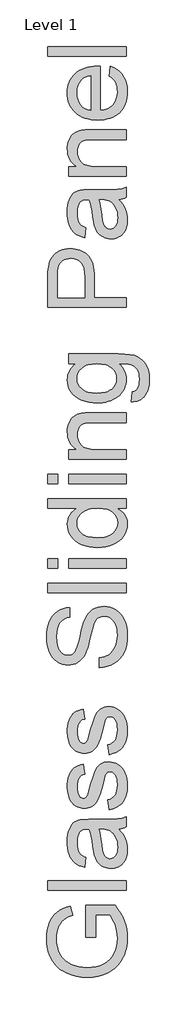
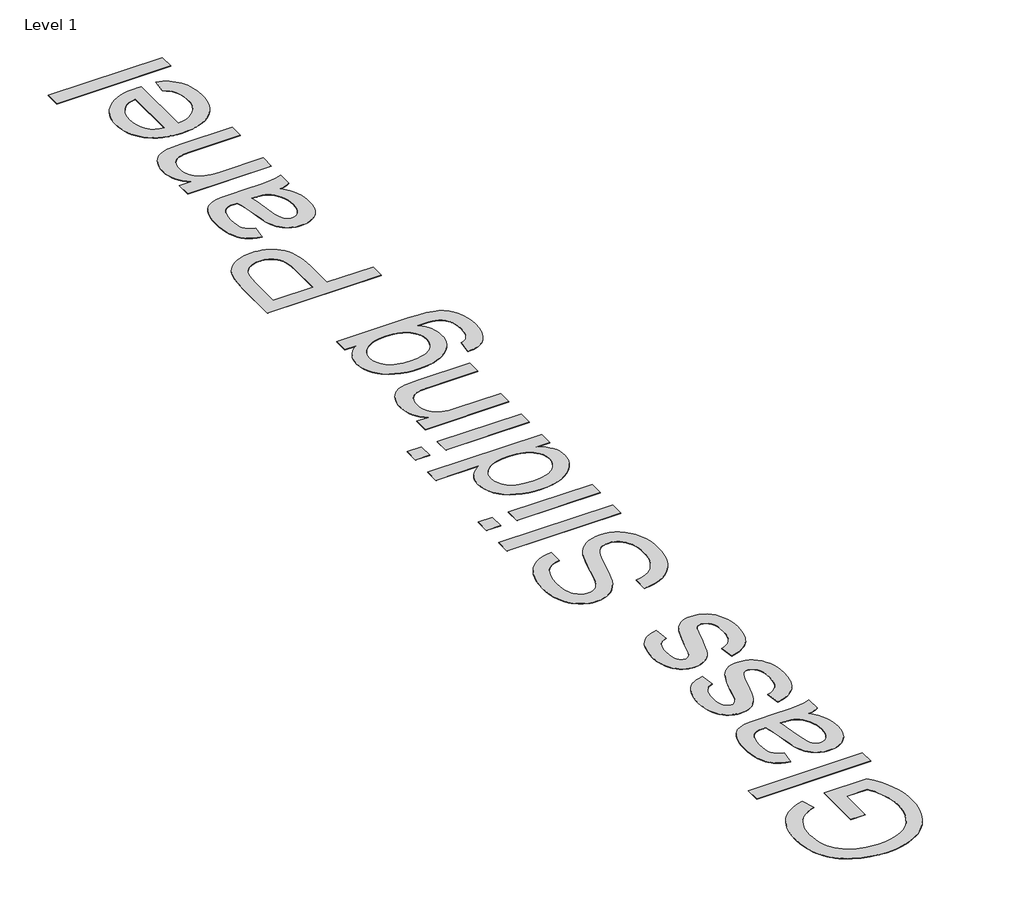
# One storey, part 7 of 80: 1 proxy.
"""IFC4 building model written with IfcOpenShell, lengths in millimetres."""

import ifcopenshell
import ifcopenshell.guid

model = None  # the IFC model being written
_history = None  # IfcOwnerHistory: only IFC2X3 demands one
_inside = {}  # id of a spatial element -> (the spatial element, [elements in it])
_under = {}  # id of a project, library or spatial element -> (it, [spatial elements below it])
_declared = {}  # id of a project -> (the project, [libraries it declares])
_typed = {}  # id of a type object -> (the type object, [elements of that type])
_made_of = {}  # id of a material, layer set ... -> (it, [elements and type objects made of it])


def new_model(schema):
    """Start an empty IFC model of exactly this schema.

    Asked for "IFC4X3", IfcOpenShell would pick the latest addendum, in which some entities
    have other attributes; the version numbers below select the first issue.
    IFC2X3 requires an IfcOwnerHistory on every rooted entity: one is made here for all.
    """
    global model, _history
    if schema == "IFC4X3":
        model = ifcopenshell.file(schema_version=(4, 3, 0, 0))
    else:
        model = ifcopenshell.file(schema=schema)
    _inside.clear()
    _under.clear()
    _declared.clear()
    _typed.clear()
    _made_of.clear()
    _history = None
    if model.schema == "IFC2X3":
        org = make("IfcOrganization", Name="unknown")
        user = make(
            "IfcPersonAndOrganization",
            ThePerson=make("IfcPerson", FamilyName="unknown"),
            TheOrganization=org,
        )
        app = make(
            "IfcApplication",
            ApplicationDeveloper=org,
            Version="unknown",
            ApplicationFullName="unknown",
            ApplicationIdentifier="unknown",
        )
        _history = make(
            "IfcOwnerHistory",
            OwningUser=user,
            OwningApplication=app,
            ChangeAction="ADDED",
            CreationDate=0,
        )
    return model


def make(cls, **values):
    """One entity of the class cls with the attributes given. An attribute that is None is left unset."""
    return model.create_entity(
        cls, **{name: value for name, value in values.items() if value is not None}
    )


def rooted(cls, **values):
    """An entity with a GlobalId (a new one), such as an element, a storey or a relation."""
    return make(cls, GlobalId=ifcopenshell.guid.new(), OwnerHistory=_history, **values)


def si_unit(unit_type, name, prefix=None):
    """IfcSIUnit, for example si_unit("LENGTHUNIT", "METRE", prefix="MILLI")."""
    return make("IfcSIUnit", UnitType=unit_type, Prefix=prefix, Name=name)


def assignment(units):
    """IfcUnitAssignment: the units of a project."""
    return None if units is None else make("IfcUnitAssignment", Units=units)


def point(xyz):
    """IfcCartesianPoint."""
    return None if xyz is None else make("IfcCartesianPoint", Coordinates=xyz)


def direction(xyz):
    """IfcDirection."""
    return None if xyz is None else make("IfcDirection", DirectionRatios=xyz)


def frame(location, z_axis=None, x_axis=None):
    """IfcAxis2Placement3D, a coordinate frame: its origin and axes. An axis left out is left unset."""
    return make(
        "IfcAxis2Placement3D",
        Location=point(location),
        Axis=direction(z_axis),
        RefDirection=direction(x_axis),
    )


def origin():
    """The frame at (0, 0, 0) with its axes left unset."""
    return frame((0.0, 0.0, 0.0))


def origin_with_axes():
    """The frame at (0, 0, 0) with the z axis (0, 0, 1) and the x axis (1, 0, 0) written out."""
    return frame((0.0, 0.0, 0.0), z_axis=(0.0, 0.0, 1.0), x_axis=(1.0, 0.0, 0.0))


def place(relative_to, where):
    """IfcLocalPlacement: puts the frame where relative to a parent placement (None: the world)."""
    return make(
        "IfcLocalPlacement", PlacementRelTo=relative_to, RelativePlacement=where
    )


def context(
    kind, dimensions, precision=None, world=None, true_north=None, identifier=None
):
    """IfcGeometricRepresentationContext, for example the 3D "Model" context."""
    return make(
        "IfcGeometricRepresentationContext",
        ContextIdentifier=identifier,
        ContextType=kind,
        CoordinateSpaceDimension=dimensions,
        Precision=precision,
        WorldCoordinateSystem=world,
        TrueNorth=true_north,
    )


def project(units=None, contexts=None):
    """IfcProject with its units and contexts."""
    return rooted(
        "IfcProject",
        Name="project",
        RepresentationContexts=contexts,
        UnitsInContext=assignment(units),
    )


def spatial(cls, under=None, at=None, **own):
    """A site, building, storey or space (cls), placed at a placement, below another one or the project."""
    s = rooted(cls, ObjectPlacement=at, **own)
    if under is not None:
        _under.setdefault(under.id(), (under, []))[1].append(s)
    return s


def polyline(points):
    """IfcPolyline through the points."""
    return make("IfcPolyline", Points=[point(p) for p in points])


def outline(outer, holes=None, kind="AREA"):
    """IfcArbitraryClosedProfileDef: a profile drawn as a closed curve; with holes, ...WithVoids."""
    if holes is None:
        return make("IfcArbitraryClosedProfileDef", ProfileType=kind, OuterCurve=outer)
    return make(
        "IfcArbitraryProfileDefWithVoids",
        ProfileType=kind,
        OuterCurve=outer,
        InnerCurves=holes,
    )


def extrude(swept, where, along, depth):
    """IfcExtrudedAreaSolid: the profile swept, set in the frame where, extruded along a direction by depth."""
    return make(
        "IfcExtrudedAreaSolid",
        SweptArea=swept,
        Position=where,
        ExtrudedDirection=direction(along),
        Depth=depth,
    )


def shape(context_of_items, identifier, shape_type, items):
    """IfcShapeRepresentation: the items that make up one representation, for example the "Body"."""
    return make(
        "IfcShapeRepresentation",
        ContextOfItems=context_of_items,
        RepresentationIdentifier=identifier,
        RepresentationType=shape_type,
        Items=items,
    )


def made_of(thing, what):
    """Note that an element or type object is made of a material, layer set ...; save() writes the relation."""
    if what is not None:
        _made_of.setdefault(what.id(), (what, []))[1].append(thing)
    return thing


def element(
    cls,
    number,
    at=None,
    inside=None,
    cuts=None,
    type_object=None,
    material=None,
    context=None,
    identifier="Body",
    shape_type=None,
    held_by="IfcProductDefinitionShape",
    body=None,
    shapes=None,
    **own,
):
    """One element of the class cls, such as IfcWall. Its Tag is "e" and its number.

    at: its placement. inside: the storey or other place that contains it. cuts: it is an
    opening in that element (IfcRelVoidsElement). A single representation is given by context,
    identifier, shape_type and body (its items); several are given by shapes. held_by: the class
    of the entity that holds the representations. save() writes the other relations.
    """
    e = rooted(cls, Tag="e%d" % number, ObjectPlacement=at, **own)
    if body is not None:
        shapes = [shape(context, identifier, shape_type, body)]
    if shapes is not None:
        e.Representation = make(held_by, Representations=shapes)
    if inside is not None:
        _inside.setdefault(inside.id(), (inside, []))[1].append(e)
    if cuts is not None:
        rooted(
            "IfcRelVoidsElement", RelatingBuildingElement=cuts, RelatedOpeningElement=e
        )
    if type_object is not None:
        _typed.setdefault(type_object.id(), (type_object, []))[1].append(e)
    return made_of(e, material)


def aggregate(whole, parts):
    """IfcRelAggregates: a whole, such as a stair, and the parts it consists of."""
    return rooted("IfcRelAggregates", RelatingObject=whole, RelatedObjects=parts)


def save(model, path):
    """Write the relations noted so far, then the file.

    IfcRelAggregates (storeys below a building ...), IfcRelContainedInSpatialStructure (elements
    in a storey), IfcRelDefinesByType, IfcRelAssociatesMaterial and IfcRelDeclares: one each for
    every whole, place, type object, material and project.
    """
    for whole, parts in _under.values():
        aggregate(whole, parts)
    for where, things in _inside.values():
        rooted(
            "IfcRelContainedInSpatialStructure",
            RelatedElements=things,
            RelatingStructure=where,
        )
    for kind, things in _typed.values():
        rooted("IfcRelDefinesByType", RelatedObjects=things, RelatingType=kind)
    for what, things in _made_of.values():
        rooted("IfcRelAssociatesMaterial", RelatedObjects=things, RelatingMaterial=what)
    for by, libraries in _declared.values():
        rooted("IfcRelDeclares", RelatingContext=by, RelatedDefinitions=libraries)
    model.write(path)


model = new_model("IFC4")

# Units and contexts
model_context = context("Model", 3, world=origin())
ifc_project = project(units=[si_unit("LENGTHUNIT", "METRE", prefix="MILLI")], contexts=[model_context])

# Site, building, storey
site = spatial("IfcSite", under=ifc_project)
building = spatial("IfcBuilding", under=site)
storey = spatial("IfcBuildingStorey", under=building, Name="Level 1", Elevation=0.0)

# Proxy
placement = place(None, origin())
element("IfcBuildingElementProxy", 1, Name="1500mm", ObjectType="1500mm", at=placement, inside=storey, context=model_context, shape_type="SweptSolid", body=[
    extrude(outline(polyline([(360249.661956, -102274.2411081), (360061.3063744, -102274.2411081), (360061.3063744, -101662.0854681), (360624.533709, -101662.0854681), (360679.9229419, -101735.8802971), (360728.0005202, -101810.8477499), (360768.7664438, -101886.9878266), (360802.2207127, -101964.3005271), (360828.2943491, -102042.693881), (360846.9183751, -102122.0759178), (360858.0927907, -102202.4466374), (360861.8175959, -102283.8060399), (360855.8969951, -102391.9978355), (360838.1351925, -102495.1082609), (360824.8138406, -102544.7579599), (360808.5321882, -102593.1373163), (360789.2902354, -102640.2463302), (360767.0879822, -102686.0850017), (360742.0806287, -102729.9031962), (360714.4233753, -102770.9507794), (360684.1162219, -102809.2277514), (360651.1591684, -102844.7341121), (360615.552215, -102877.4698615), (360577.2953616, -102907.4349996), (360536.3886082, -102934.6295265), (360492.8319548, -102959.0534421), (360400.4705813, -102999.3710095), (360302.9128748, -103028.1692719), (360200.158835, -103045.4482294), (360092.208462, -103051.2078819), (359984.2465927, -103045.471222), (359879.986536, -103028.2612424), (359779.4282919, -102999.5779431), (359682.5718604, -102959.4213241), (359636.5952332, -102935.2187125), (359593.670877, -102908.5041567), (359553.7987917, -102879.2776566), (359516.9789773, -102847.5392123), (359483.2114339, -102813.2888237), (359452.4961613, -102776.5264909), (359424.8331597, -102737.2522138), (359400.2224291, -102695.4659925), (359378.5806211, -102651.6075609), (359359.8243875, -102606.116653), (359343.9537283, -102558.9932686), (359330.9686435, -102510.237408), (359313.6551971, -102407.8282576), (359307.8840483, -102298.8892017), (359311.2294752, -102219.3577129), (359321.2657559, -102143.7349703), (359337.9928903, -102072.0209738), (359361.4108786, -102004.2157236), (359390.795453, -101941.917207), (359425.4223458, -101886.7234114), (359465.291557, -101838.6343368), (359510.4030866, -101797.6499833), (359561.7801065, -101762.4597712), (359620.4457885, -101731.7531209), (359686.4001324, -101705.5300325), (359759.6431384, -101683.7905058), (359808.5714437, -101857.4308075), (359755.8838442, -101875.7674257), (359709.2892903, -101896.1963728), (359668.7877819, -101918.7176487), (359634.379319, -101943.3312534), (359604.5808774, -101971.7501375), (359577.9094328, -102005.6872516), (359554.3649851, -102045.1425956), (359533.9475343, -102090.1161695), (359517.4503261, -102139.1479416), (359505.666606, -102190.7778804), (359498.5963739, -102245.0059858), (359496.2396298, -102301.8322577), (359498.7803149, -102369.1891518), (359506.4023699, -102431.8325577), (359519.1057951, -102489.7624757), (359536.8905903, -102542.9789055), (359558.8025616, -102591.3783805), (359583.8875152, -102634.8574338), (359612.1454509, -102673.4160655), (359643.5763689, -102707.0542754), (359677.4100161, -102736.4963313), (359712.8761397, -102762.4665009), (359749.9747397, -102784.9647842), (359788.705816, -102803.9911811), (359858.3734688, -102829.7429208), (359930.8922071, -102848.1370205), (360006.2620309, -102859.1734804), (360084.4829401, -102862.8523003), (360178.5342714, -102858.4262201), (360264.607162, -102845.1479793), (360342.7016118, -102823.0175781), (360412.8176208, -102792.0350163), (360474.6907739, -102752.6026649), (360528.0566558, -102705.1228949), (360572.9152666, -102649.5957063), (360609.2666062, -102586.021099), (360637.3520973, -102517.3766179), (360657.4131624, -102446.6398081), (360669.4498014, -102373.8106693), (360673.4620144, -102298.8892017), (360670.4384842, -102233.2567545), (360661.3678938, -102168.4290492), (360646.2502431, -102104.4060857), (360625.085532, -102041.1878641), (360600.4949199, -101982.1543002), (360575.0995659, -101930.6853098), (360548.8994701, -101886.780893), (360521.8946324, -101850.4410496), (360249.661956, -101850.4410496), (360249.661956, -102274.2411081)])), origin_with_axes(), (0.0, 0.0, 1.0), 5.0),
    extrude(outline(polyline([(360838.2731482, -101379.5520958), (359331.428496, -101379.5520958), (359331.428496, -101191.1965143), (360838.2731482, -101191.1965143), (360838.2731482, -101379.5520958)])), origin_with_axes(), (0.0, 0.0, 1.0), 5.0),
    extrude(outline(polyline([(360697.0064621, -100202.3297112), (360738.9220169, -100246.9928847), (360774.1697106, -100292.3228443), (360802.7495431, -100338.31959), (360824.6615144, -100384.9831218), (360840.9173001, -100432.8422701), (360852.5285755, -100482.4258653), (360859.4953408, -100533.7339073), (360861.8175959, -100586.7663962), (360856.2303881, -100670.6319948), (360849.2463784, -100708.6934109), (360839.4687647, -100744.1739049), (360826.8975472, -100777.0734767), (360811.5327257, -100807.3921265), (360793.3743004, -100835.1298541), (360772.4222711, -100860.2866596), (360749.2974388, -100882.6613575), (360724.6206043, -100902.0527624), (360698.3917677, -100918.4608742), (360670.6109289, -100931.8856929), (360641.278088, -100942.3272186), (360610.3932448, -100949.7854512), (360543.9675521, -100955.7520373), (360504.029363, -100953.4987601), (360465.8845986, -100946.7389285), (360429.533259, -100935.4725424), (360394.975344, -100919.6996018), (360362.9696105, -100900.2593376), (360334.2748148, -100877.9909806), (360308.8909572, -100852.8945308), (360286.8180375, -100824.9699881), (360250.9495429, -100762.6599751), (360225.0138623, -100693.0842928), (360210.574494, -100625.3020352), (360196.6869486, -100530.1125689), (360182.4315213, -100426.507802), (360166.888507, -100337.5263445), (360150.0579058, -100263.1681962), (360131.9397175, -100203.4333572), (360090.00117, -100202.3297112), (360044.3378174, -100205.5716713), (360005.9401341, -100215.2975516), (359974.8081203, -100231.507352), (359950.9417759, -100254.2010725), (359927.1214167, -100293.4264903), (359910.1068744, -100341.2051644), (359899.898149, -100397.5370949), (359896.4952406, -100462.4222818), (359898.7600141, -100522.754929), (359905.5543347, -100574.6262903), (359916.8782024, -100618.0363658), (359932.7316171, -100652.9851553), (359954.3561806, -100681.7029436), (359982.9934947, -100706.4200151), (360018.6435593, -100727.13637), (360061.3063744, -100743.8520081), (360037.7619267, -100932.2075897), (359983.4993324, -100917.8716882), (359934.7549681, -100899.5120773), (359891.5288336, -100877.1287572), (359853.8209291, -100850.7217277), (359820.8724979, -100819.152854), (359791.9247835, -100781.2840011), (359766.9777857, -100737.1151691), (359746.0315046, -100686.6463579), (359729.4538221, -100630.9007393), (359717.6126204, -100570.9014851), (359710.5078994, -100506.6485954), (359708.1396591, -100438.1420701), (359710.2319879, -100371.1760507), (359716.5089744, -100310.8089146), (359726.9706187, -100257.0406617), (359741.6169206, -100209.8712921), (359759.4247084, -100168.9099312), (359779.3708104, -100133.7657044), (359801.4552264, -100104.4386116), (359825.6779565, -100080.9286528), (359852.636809, -100061.8677669), (359882.929592, -100045.8878928), (359916.5563056, -100032.9890303), (359953.5169498, -100023.1711796), (360018.632063, -100016.2733922), (360118.3280837, -100013.9741297), (360352.6689146, -100013.9741297), (360556.7974367, -100011.5828967), (360679.8999493, -100004.4091978), (360760.788003, -99990.245741), (360838.2731482, -99966.8852343), (360838.2731482, -100155.2408158), (360806.8192376, -100171.9794466), (360772.7901531, -100185.4071394), (360736.1858946, -100195.5238943), (360697.0064621, -100202.3297112)]), holes=[polyline([(360320.295299, -100202.3297112), (360336.5970699, -100259.25945), (360351.6572391, -100328.8811176), (360378.0527723, -100506.2002392), (360392.4921406, -100603.9188942), (360408.5869779, -100668.2522581), (360429.4642811, -100710.4207318), (360442.8689813, -100727.4007852), (360458.2510472, -100741.6447162), (360475.0586559, -100752.9111023), (360492.7399843, -100760.9585209), (360511.2950324, -100765.7869721), (360530.7238003, -100767.3964558), (360559.9934115, -100763.8900806), (360586.733834, -100753.3709548), (360610.9450678, -100735.8390784), (360632.6271129, -100711.2944516), (360650.4923823, -100679.9670004), (360663.253289, -100642.0866512), (360670.9098331, -100597.653404), (360673.4620144, -100546.6672587), (360670.6454179, -100494.6119564), (360662.1956283, -100445.49971), (360648.1126457, -100399.3305196), (360628.39647, -100356.1043852), (360604.6795776, -100317.1088937), (360578.5944449, -100283.6316322), (360550.1410718, -100255.6726005), (360519.3194584, -100233.2317988), (360491.7283088, -100220.1949806), (360458.2510472, -100210.8829676), (360418.8876737, -100205.2957598), (360373.6381883, -100203.4333572), (360320.295299, -100202.3297112)])]), origin_with_axes(), (0.0, 0.0, 1.0), 5.0),
    extrude(outline(polyline([(360508.6508806, -99825.6185482), (360485.1064329, -99637.2629666), (360528.0566558, -99625.8816174), (360565.6725898, -99607.5564955), (360597.9542349, -99582.287601), (360624.901591, -99550.0749338), (360646.1467763, -99510.8265234), (360661.3219086, -99464.4503994), (360670.4269879, -99410.9465617), (360673.4620144, -99350.3150104), (360670.6799068, -99289.7524369), (360662.333584, -99237.5591789), (360648.4230461, -99193.7352362), (360628.948293, -99158.2806089), (360605.725742, -99130.9193855), (360580.5718106, -99111.3756545), (360553.4864987, -99099.6494159), (360524.4698063, -99095.7406697), (360499.0399634, -99099.6724086), (360476.461206, -99111.467625), (360456.733534, -99131.1263191), (360439.8569475, -99158.6484909), (360415.9446178, -99229.1898635), (360386.1461762, -99352.5223024), (360336.4361216, -99524.4151646), (360314.3057203, -99587.8058309), (360293.9917364, -99636.1593206), (360272.7120622, -99674.522515), (360247.6845902, -99707.942295), (360218.9093204, -99736.4186606), (360186.3862528, -99759.951612), (360151.0925739, -99778.3802007), (360114.0054702, -99791.5434784), (360075.1249419, -99799.4414449), (360034.4509888, -99802.0741005), (359997.2604183, -99799.958779), (359961.472398, -99793.6128146), (359927.0869277, -99783.0362072), (359894.1040076, -99768.2289569), (359863.1904237, -99749.7658793), (359835.0129621, -99728.2217899), (359809.5716229, -99703.5966889), (359786.866406, -99675.8905761), (359756.5621267, -99623.8812591), (359731.1322837, -99556.1449867), (359713.8878152, -99477.832107), (359708.1396591, -99394.0929678), (359710.4504178, -99330.794272), (359717.3826942, -99271.4962929), (359728.9364881, -99216.1990305), (359745.1117996, -99164.9024848), (359765.2303462, -99118.8252649), (359788.6138455, -99079.18598), (359815.2622975, -99045.9846299), (359845.1757023, -99019.2212147), (359879.4002241, -98997.516177), (359918.9820275, -98979.4899593), (359963.9211125, -98965.1425614), (360014.217479, -98954.4739836), (360037.7619267, -99142.8295651), (360006.2965198, -99151.8081851), (359978.4869403, -99166.6039391), (359954.333188, -99187.2168271), (359933.8352631, -99213.6468492), (359917.4990032, -99246.0089685), (359905.8302462, -99284.418148), (359898.828992, -99328.8743879), (359896.4952406, -99379.377688), (359898.7255252, -99437.9628957), (359905.416379, -99487.5349946), (359916.5678019, -99528.0939846), (359932.1797941, -99559.6398657), (359950.7578349, -99583.2992765), (359970.8074036, -99600.1988556), (359992.3285003, -99610.3386031), (360015.321125, -99613.7185189), (360044.2918321, -99608.1083185), (360070.1355423, -99591.2777172), (360093.2201375, -99562.4909511), (360111.7062078, -99521.0122562), (360151.8053452, -99358.7762963), (360201.0095621, -99192.3556787), (360240.4649061, -99082.3129769), (360259.7097329, -99043.5933969), (360282.863306, -99009.2884009), (360309.9256253, -98979.3979888), (360340.8966908, -98953.9221606), (360375.8224877, -98933.5621914), (360414.7490013, -98919.0193563), (360457.6762316, -98910.2936552), (360504.6041786, -98907.3850882), (360551.7390592, -98910.799493), (360597.4943824, -98921.0427073), (360641.8701481, -98938.1147311), (360684.8663562, -98962.0155645), (360724.7700564, -98992.3543328), (360759.868298, -99028.7401614), (360790.1610811, -99071.1730502), (360815.6484055, -99119.6529994), (360835.8474263, -99172.857933), (360850.2752983, -99229.465775), (360858.9320215, -99289.4765254), (360861.8175959, -99352.8901844), (360856.2533807, -99454.2646667), (360849.2981118, -99500.1407011), (360839.5607352, -99542.8092644), (360827.0412511, -99582.2703565), (360811.7396593, -99618.5239775), (360793.65596, -99651.5701274), (360772.7901531, -99681.4088061), (360749.1882238, -99708.3676585), (360722.8961575, -99732.7743296), (360693.9139541, -99754.6288194), (360662.2416135, -99773.9311278), (360627.8791359, -99790.6812549), (360590.8265212, -99804.8792007), (360508.6508806, -99825.6185482)])), origin_with_axes(), (0.0, 0.0, 1.0), 5.0),
    extrude(outline(polyline([(360508.6508806, -98766.1184021), (360485.1064329, -98577.7628205), (360528.0566558, -98566.3814713), (360565.6725898, -98548.0563494), (360597.9542349, -98522.7874549), (360624.901591, -98490.5747877), (360646.1467763, -98451.3263773), (360661.3219086, -98404.9502533), (360670.4269879, -98351.4464156), (360673.4620144, -98290.8148643), (360670.6799068, -98230.2522908), (360662.333584, -98178.0590328), (360648.4230461, -98134.2350901), (360628.948293, -98098.7804628), (360605.725742, -98071.4192394), (360580.5718106, -98051.8755084), (360553.4864987, -98040.1492698), (360524.4698063, -98036.2405236), (360499.0399634, -98040.1722624), (360476.461206, -98051.9674789), (360456.733534, -98071.626173), (360439.8569475, -98099.1483448), (360415.9446178, -98169.6897174), (360386.1461762, -98293.0221563), (360336.4361216, -98464.9150185), (360314.3057203, -98528.3056848), (360293.9917364, -98576.6591745), (360272.7120622, -98615.0223688), (360247.6845902, -98648.4421488), (360218.9093204, -98676.9185145), (360186.3862528, -98700.4514659), (360151.0925739, -98718.8800546), (360114.0054702, -98732.0433323), (360075.1249419, -98739.9412988), (360034.4509888, -98742.5739544), (359997.2604183, -98740.4586329), (359961.472398, -98734.1126685), (359927.0869277, -98723.5360611), (359894.1040076, -98708.7288108), (359863.1904237, -98690.2657332), (359835.0129621, -98668.7216438), (359809.5716229, -98644.0965428), (359786.866406, -98616.39043), (359756.5621267, -98564.3811129), (359731.1322837, -98496.6448406), (359713.8878152, -98418.3319609), (359708.1396591, -98334.5928217), (359710.4504178, -98271.2941259), (359717.3826942, -98211.9961468), (359728.9364881, -98156.6988844), (359745.1117996, -98105.4023387), (359765.2303462, -98059.3251188), (359788.6138455, -98019.6858338), (359815.2622975, -97986.4844838), (359845.1757023, -97959.7210686), (359879.4002241, -97938.0160309), (359918.9820275, -97919.9898131), (359963.9211125, -97905.6424153), (360014.217479, -97894.9738375), (360037.7619267, -98083.329419), (360006.2965198, -98092.308039), (359978.4869403, -98107.1037929), (359954.333188, -98127.716681), (359933.8352631, -98154.1467031), (359917.4990032, -98186.5088223), (359905.8302462, -98224.9180019), (359898.828992, -98269.3742418), (359896.4952406, -98319.8775419), (359898.7255252, -98378.4627496), (359905.416379, -98428.0348485), (359916.5678019, -98468.5938385), (359932.1797941, -98500.1397195), (359950.7578349, -98523.7991304), (359970.8074036, -98540.6987095), (359992.3285003, -98550.838457), (360015.321125, -98554.2183728), (360044.2918321, -98548.6081724), (360070.1355423, -98531.7775711), (360093.2201375, -98502.990805), (360111.7062078, -98461.51211), (360151.8053452, -98299.2761502), (360201.0095621, -98132.8555326), (360240.4649061, -98022.8128308), (360259.7097329, -97984.0932508), (360282.863306, -97949.7882548), (360309.9256253, -97919.8978426), (360340.8966908, -97894.4220145), (360375.8224877, -97874.0620453), (360414.7490013, -97859.5192102), (360457.6762316, -97850.7935091), (360504.6041786, -97847.8849421), (360551.7390592, -97851.2993469), (360597.4943824, -97861.5425612), (360641.8701481, -97878.614585), (360684.8663562, -97902.5154184), (360724.7700564, -97932.8541867), (360759.868298, -97969.2400153), (360790.1610811, -98011.6729041), (360815.6484055, -98060.1528533), (360835.8474263, -98113.3577869), (360850.2752983, -98169.9656289), (360858.9320215, -98229.9763793), (360861.8175959, -98293.3900383), (360856.2533807, -98394.7645205), (360849.2981118, -98440.640555), (360839.5607352, -98483.3091183), (360827.0412511, -98522.7702104), (360811.7396593, -98559.0238314), (360793.65596, -98592.0699812), (360772.7901531, -98621.9086599), (360749.1882238, -98648.8675124), (360722.8961575, -98673.2741835), (360693.9139541, -98695.1286733), (360662.2416135, -98714.4309817), (360627.8791359, -98731.1811088), (360590.8265212, -98745.3790546), (360508.6508806, -98766.1184021)])), origin_with_axes(), (0.0, 0.0, 1.0), 5.0),
    extrude(outline(polyline([(360320.295299, -97094.462616), (360320.295299, -96906.1070344), (360375.1212126, -96897.4848002), (360424.8197709, -96884.4939672), (360469.3909739, -96867.1345356), (360508.8348216, -96845.4065052), (360543.9445595, -96818.2062302), (360575.5134332, -96784.4300645), (360603.5414427, -96744.0780082), (360628.028588, -96697.1500612), (360647.905712, -96645.3706704), (360662.1036578, -96590.4642826), (360670.6224252, -96532.4308978), (360673.4620144, -96471.2705161), (360671.312204, -96417.1688702), (360664.8627728, -96366.332177), (360654.1137207, -96318.7604365), (360639.0650478, -96274.4536487), (360620.2570808, -96234.5039633), (360598.2301464, -96200.0035299), (360572.9842445, -96170.9523486), (360544.5193751, -96147.3504194), (360514.0656437, -96129.0827791), (360482.8531556, -96116.0344645), (360450.881911, -96108.2054758), (360418.1519097, -96105.5958129), (360385.5598642, -96107.550186), (360355.1061328, -96113.4133053), (360326.7907155, -96123.1851708), (360300.6136123, -96136.8657825), (360276.4368674, -96156.5934545), (360254.1225251, -96184.5065009), (360233.6705855, -96220.6049217), (360215.0810484, -96264.8887168), (360185.512533, -96364.3548113), (360143.1601183, -96539.1447443), (360119.075344, -96637.2657702), (360095.5653852, -96719.1769956), (360072.6302421, -96784.8784207), (360050.2699146, -96834.3700454), (360020.2645393, -96884.6664119), (359986.9022409, -96928.1339689), (359950.1830193, -96964.7727164), (359910.1068744, -96994.5826543), (359867.0876736, -97017.6787458), (359821.5392841, -97034.175954), (359773.4617058, -97044.0742789), (359722.8549389, -97047.3737206), (359666.7644309, -97043.2925297), (359612.5363256, -97031.0489571), (359560.1706228, -97010.6430026), (359509.6673227, -96982.0746664), (359463.084265, -96945.6658452), (359422.4792898, -96901.7384357), (359387.852397, -96850.292438), (359359.2035866, -96791.3278519), (359336.7512886, -96726.8335397), (359320.7139329, -96658.7983632), (359311.0915194, -96587.2223225), (359307.8840483, -96512.1054176), (359311.2409715, -96430.1597032), (359321.3117411, -96353.1803957), (359338.0963572, -96281.1674951), (359361.5948196, -96214.1210015), (359391.6001948, -96153.2825166), (359427.9055492, -96099.893642), (359470.5108828, -96053.9543779), (359519.4161955, -96015.4647241), (359573.1959447, -95984.7235849), (359630.4245876, -95962.0298643), (359691.1021241, -95947.3835624), (359755.2285544, -95940.7846791), (359755.2285544, -96129.1402606), (359695.1258335, -96141.740219), (359642.8406049, -96163.7211682), (359598.3728687, -96195.0831083), (359561.722625, -96235.8260392), (359533.0738146, -96286.7087177), (359512.6103786, -96348.4899003), (359500.332317, -96421.1695869), (359496.2396298, -96504.7477777), (359500.2863318, -96590.9931129), (359512.4264376, -96664.6844751), (359532.6599474, -96725.8218642), (359545.8117287, -96751.6828188), (359560.986861, -96774.4052802), (359595.0389382, -96811.4234059), (359632.4479385, -96837.8649243), (359673.2138621, -96853.7298354), (359717.3367089, -96859.0181391), (359755.2975323, -96855.2703412), (359789.7174915, -96844.0269478), (359820.5965865, -96825.2879586), (359847.9348172, -96799.0533738), (359873.8245126, -96757.7586199), (359899.9901195, -96692.7354772), (359926.4316379, -96603.9839459), (359953.1490678, -96491.5040259), (359979.1997116, -96377.4146221), (360003.6408717, -96283.8346396), (360026.472548, -96210.7640783), (360047.6947406, -96158.2029382), (360079.8614226, -96100.4569613), (360116.0288212, -96050.8273809), (360156.1969366, -96009.314197), (360200.3657686, -95975.9174096), (360248.3053911, -95950.2461442), (360299.7858778, -95931.909526), (360354.8072287, -95920.907555), (360413.3694438, -95917.2402314), (360472.2880446, -95921.459378), (360529.4821985, -95934.1168179), (360584.9519056, -95955.2125511), (360638.6971659, -95984.7465775), (360688.6371467, -96022.2015632), (360732.6910156, -96067.0601739), (360770.8587726, -96119.3224099), (360803.1404177, -96178.988271), (360828.8116832, -96244.3218141), (360847.1483014, -96313.587096), (360858.1502723, -96386.7841167), (360861.8175959, -96463.9128762), (360857.8628645, -96560.26347), (360845.9986701, -96648.4516821), (360826.2250129, -96728.4775123), (360798.5418928, -96800.3409608), (360762.9033245, -96864.4788874), (360719.2633228, -96921.328152), (360667.6218877, -96970.8887545), (360607.9790193, -97013.160695), (360542.2660979, -97047.2127722), (360472.414504, -97072.1137848), (360398.4242378, -97087.8637327), (360320.295299, -97094.462616)])), origin_with_axes(), (0.0, 0.0, 1.0), 5.0),
    extrude(outline(polyline([(360838.2731482, -95658.2513068), (359331.428496, -95658.2513068), (359331.428496, -95469.8957253), (360838.2731482, -95469.8957253), (360838.2731482, -95658.2513068)])), origin_with_axes(), (0.0, 0.0, 1.0), 5.0),
    extrude(outline(polyline([(359519.7840775, -95187.362353), (359331.428496, -95187.362353), (359331.428496, -94999.0067714), (359519.7840775, -94999.0067714), (359519.7840775, -95187.362353)])), origin_with_axes(), (0.0, 0.0, 1.0), 5.0),
    extrude(outline(polyline([(360838.2731482, -95187.362353), (359731.6841067, -95187.362353), (359731.6841067, -94999.0067714), (360838.2731482, -94999.0067714), (360838.2731482, -95187.362353)])), origin_with_axes(), (0.0, 0.0, 1.0), 5.0),
    extrude(outline(polyline([(360838.2731482, -94033.6844161), (360660.5861446, -94033.6844161), (360707.749766, -94060.3731052), (360748.6249045, -94090.0393392), (360783.2115602, -94122.6831182), (360811.5097331, -94158.304442), (360833.5194231, -94196.9033107), (360849.2406302, -94238.4797243), (360858.6733545, -94283.0336828), (360861.8175959, -94330.5651862), (360857.2650562, -94392.7372434), (360843.6074372, -94452.3341266), (360820.8447387, -94509.3558359), (360788.9769609, -94563.8023712), (360748.9582976, -94613.9722782), (360701.7429428, -94658.1641029), (360647.3308964, -94696.3778452), (360585.7221585, -94728.613505), (360518.089353, -94754.2042963), (360445.6051036, -94772.4834329), (360368.2694105, -94783.4509149), (360286.0822735, -94787.1067422), (360205.4011534, -94783.7383227), (360128.536809, -94773.6330641), (360055.4892404, -94756.7909666), (359986.2584474, -94733.2120299), (359922.8677811, -94702.9077506), (359867.3405925, -94665.8896248), (359819.6768815, -94622.1576526), (359779.8766481, -94571.711834), (359748.4917154, -94516.3340975), (359726.0739063, -94457.8063713), (359712.6232209, -94396.1286555), (359708.1396591, -94331.3009502), (359711.3471302, -94283.8901581), (359720.9695436, -94239.1465104), (359737.0068994, -94197.0700072), (359759.4591974, -94157.6606485), (359787.0388507, -94121.3552941), (359818.4582724, -94088.5908039), (359853.7174623, -94059.3671779), (359892.8164206, -94033.6844161), (359331.428496, -94033.6844161), (359331.428496, -93845.3288346), (360838.2731482, -93845.3288346), (360838.2731482, -94033.6844161)]), holes=[polyline([(360285.3465095, -94598.7511607), (360376.6847111, -94593.4398644), (360417.7409166, -94586.800744), (360455.7218585, -94577.5059755), (360490.6275369, -94565.5555588), (360522.4579517, -94550.9494939), (360551.213103, -94533.687781), (360576.8929907, -94513.7704198), (360619.1419385, -94469.3716615), (360649.3197585, -94421.1561275), (360667.4264504, -94369.1238178), (360673.4620144, -94313.2747324), (360667.7023619, -94257.1612319), (360650.4234044, -94205.4393226), (360621.625142, -94158.1090047), (360581.3075746, -94115.170278), (360556.7485773, -94096.0720291), (360529.1488055, -94079.5202134), (360498.508259, -94065.5148309), (360464.8269379, -94054.0558816), (360388.3419718, -94038.7772825), (360299.6939073, -94033.6844161), (360202.5040827, -94038.869253), (360159.0997554, -94045.3502991), (360119.1558182, -94054.4237636), (360082.6722709, -94066.0896465), (360049.6491137, -94080.3479479), (360020.0863465, -94097.1986678), (359993.9839693, -94116.641806), (359951.3326505, -94160.5232303), (359934.5767752, -94184.2659893), (359920.8674228, -94209.210113), (359910.2045931, -94235.3556014), (359902.5882861, -94262.7024544), (359896.4952406, -94321.0002543), (359902.3468636, -94377.9529857), (359919.9017325, -94429.9852954), (359949.1598475, -94477.0971834), (359990.1212084, -94519.2886497), (360015.2147841, -94537.9126757), (360043.6825276, -94554.0534983), (360075.5244387, -94567.7111173), (360110.7405175, -94578.885533), (360191.2951782, -94593.7847538), (360285.3465095, -94598.7511607)])]), origin_with_axes(), (0.0, 0.0, 1.0), 5.0),
    extrude(outline(polyline([(359519.7840775, -93562.7954623), (359331.428496, -93562.7954623), (359331.428496, -93374.4398807), (359519.7840775, -93374.4398807), (359519.7840775, -93562.7954623)])), origin_with_axes(), (0.0, 0.0, 1.0), 5.0),
    extrude(outline(polyline([(360838.2731482, -93562.7954623), (359731.6841067, -93562.7954623), (359731.6841067, -93374.4398807), (360838.2731482, -93374.4398807), (360838.2731482, -93562.7954623)])), origin_with_axes(), (0.0, 0.0, 1.0), 5.0),
    extrude(outline(polyline([(360838.2731482, -93091.9065084), (359731.6841067, -93091.9065084), (359731.6841067, -92903.5509269), (359886.1945447, -92903.5509269), (359844.4629309, -92872.4763946), (359808.2955322, -92838.113917), (359777.6923488, -92800.4634941), (359752.6533805, -92759.5251258), (359733.1786273, -92715.2988122), (359719.2680894, -92667.7845533), (359710.9217666, -92616.982349), (359708.1396591, -92562.8921994), (359710.38144, -92515.4929036), (359717.1067827, -92470.0479809), (359728.3156872, -92426.5574312), (359744.0081536, -92385.0212547), (359763.344951, -92347.0144461), (359785.4868485, -92314.1120001), (359810.4338463, -92286.3139169), (359838.1859443, -92263.6201963), (359868.7086536, -92244.984674), (359901.9674853, -92229.3611855), (359937.9624392, -92216.7497309), (359976.6935155, -92207.15031), (360048.1545931, -92199.7006996), (360158.7951031, -92197.2174962), (360838.2731482, -92197.2174962), (360838.2731482, -92385.5730777), (360184.1789608, -92385.5730777), (360086.7822026, -92390.9993371), (360048.6374382, -92397.7821614), (360017.528417, -92407.2781154), (359991.3283212, -92420.2114668), (359967.9103329, -92437.3064833), (359947.2744522, -92458.5631648), (359929.4206791, -92483.9815114), (359915.0157998, -92512.6878034), (359904.7266002, -92543.8083209), (359898.5530805, -92577.343064), (359896.4952406, -92613.2920327), (359901.1167581, -92670.4861867), (359914.9813108, -92723.610646), (359938.0888987, -92772.6654108), (359970.4395216, -92817.650481), (359991.0006762, -92837.783398), (360015.7119996, -92855.2319261), (360044.5734918, -92869.9960652), (360077.5851527, -92882.0758154), (360114.7469824, -92891.4711767), (360156.0589808, -92898.1821491), (360251.1334839, -92903.5509269), (360838.2731482, -92903.5509269), (360838.2731482, -93091.9065084)])), origin_with_axes(), (0.0, 0.0, 1.0), 5.0),
    extrude(outline(polyline([(360932.450939, -91985.317467), (360955.9953867, -91796.9618854), (360987.7252088, -91789.0064373), (361014.8565059, -91776.1765527), (361037.3892781, -91758.4722317), (361055.3235254, -91735.8934742), (361073.6716399, -91699.3581936), (361086.777436, -91656.7068748), (361094.6409136, -91607.9395178), (361097.2620728, -91553.0561226), (361094.2960243, -91494.2409886), (361085.3978785, -91442.5075831), (361070.5676356, -91397.8559059), (361049.8052955, -91360.2859572), (361023.6856738, -91329.0159876), (360992.7835862, -91303.2642479), (360957.0990327, -91283.0307382), (360916.6320132, -91268.3154584), (360883.3157, -91262.2683981), (360835.6060038, -91258.106733), (360697.0064621, -91255.4395885), (360730.1158417, -91285.8703273), (360758.8106373, -91318.1174835), (360783.090849, -91352.1810569), (360802.9564767, -91388.0610478), (360818.4075205, -91425.757456), (360829.4439803, -91465.2702815), (360836.0658563, -91506.5995244), (360838.2731482, -91549.7451847), (360835.7037224, -91602.9242515), (360827.995445, -91653.0165585), (360815.1483159, -91700.0221056), (360797.1623353, -91743.9408929), (360774.037503, -91784.7729203), (360745.7738191, -91822.5181878), (360712.3712835, -91857.1766954), (360673.8298964, -91888.7484432), (360631.6959116, -91916.9000381), (360587.5155833, -91941.298087), (360541.2889113, -91961.9425899), (360493.0158958, -91978.8335468), (360442.6965366, -91991.9709577), (360390.3308339, -92001.3548227), (360335.9187875, -92006.9851417), (360279.4603976, -92008.8619146), (360201.8947781, -92005.4934951), (360127.3871778, -91995.3882366), (360055.9375966, -91978.546139), (359987.5460344, -91954.9672024), (359924.4887612, -91925.0078124), (359869.0420467, -91889.0243547), (359821.205891, -91847.0168294), (359780.9802941, -91798.9852364), (359749.1125163, -91745.6998287), (359726.3498178, -91687.9308591), (359712.6921987, -91625.6783277), (359708.1396591, -91558.9422345), (359710.714833, -91513.8824383), (359718.4403549, -91470.8574893), (359731.3162247, -91429.8673876), (359749.3424425, -91390.9121332), (359772.5190082, -91353.9917261), (359800.8459218, -91319.1061663), (359834.3231834, -91286.2554538), (359872.9507929, -91255.4395885), (359731.6841067, -91255.4395885), (359731.6841067, -91067.084007), (360687.0736482, -91067.084007), (360806.7847487, -91070.3029745), (360907.6648896, -91079.9598768), (360989.7140708, -91096.0547141), (361052.9322924, -91118.5874863), (361103.9184377, -91148.0985201), (361149.2713899, -91185.1281422), (361188.9911491, -91229.6763526), (361223.0777152, -91281.7431512), (361250.4389386, -91340.7997077), (361269.9826696, -91406.3171918), (361281.7089082, -91478.2956034), (361285.6176544, -91556.7349426), (361280.1109208, -91649.0158418), (361263.5907199, -91731.984728), (361251.2005693, -91769.9771663), (361236.0570518, -91805.6416012), (361218.1601676, -91838.978033), (361197.5099165, -91869.9864615), (361174.0948023, -91897.9023819), (361147.9033287, -91921.9612896), (361118.9354957, -91942.1631845), (361087.1913032, -91958.5080666), (361052.6707513, -91970.9959358), (361015.37384, -91979.6267923), (360975.3005692, -91984.400636), (360932.450939, -91985.317467)]), holes=[polyline([(360266.5845277, -91820.5063331), (360359.7161541, -91815.4824446), (360439.3511097, -91800.4107791), (360474.107336, -91789.10703), (360505.4893947, -91775.2913366), (360533.4972856, -91758.963699), (360558.1310089, -91740.1241172), (360598.2876279, -91697.3693315), (360626.9709273, -91649.4871906), (360644.1809068, -91596.4776944), (360649.9175667, -91538.3408428), (360644.2153958, -91480.7788069), (360627.108883, -91428.0222295), (360598.5980284, -91380.0711107), (360558.6828319, -91336.9254505), (360534.24742, -91317.8272016), (360506.5585517, -91301.2753859), (360475.616227, -91287.2700033), (360441.4204459, -91275.811054), (360363.2685146, -91260.5324549), (360272.1027577, -91255.4395885), (360184.7422801, -91260.681907), (360108.809137, -91276.4088623), (360075.1278159, -91288.2040787), (360044.3033285, -91302.6204544), (360016.3356746, -91319.6579893), (359991.2248543, -91339.3166834), (359949.7806483, -91383.393545), (359920.177644, -91431.7470347), (359902.4158414, -91484.3771526), (359896.4952406, -91541.2838988), (359902.3238709, -91597.236451), (359919.809762, -91648.8433971), (359948.9529138, -91696.1047372), (359989.7533264, -91739.0204712), (360014.4790201, -91758.1187201), (360042.0270586, -91774.6705358), (360072.3974418, -91788.6759183), (360105.5901696, -91800.1348676), (360180.4426593, -91815.4134667), (360266.5845277, -91820.5063331)])]), origin_with_axes(), (0.0, 0.0, 1.0), 5.0),
    extrude(outline(polyline([(360838.2731482, -90172.3949947), (359331.428496, -90172.3949947), (359331.428496, -89613.950126), (359335.0153454, -89483.9038408), (359345.7758938, -89388.806345), (359357.0767688, -89336.394657), (359372.5852942, -89288.4205456), (359392.3014699, -89244.8840107), (359416.2252959, -89205.7850524), (359444.8511136, -89170.7098034), (359478.6732646, -89139.2443965), (359517.6917487, -89111.3888317), (359561.906566, -89087.143109), (359609.8576848, -89067.5074075), (359660.0850734, -89053.4819064), (359712.5887319, -89045.0666058), (359767.3686603, -89042.2615055), (359814.543778, -89044.155523), (359859.8679894, -89049.8375754), (359903.3412946, -89059.3076627), (359944.9636934, -89072.5657849), (359984.735186, -89089.611942), (360022.6557723, -89110.4461341), (360058.7254523, -89135.0683611), (360092.944226, -89163.478623), (360124.156714, -89196.8322992), (360151.207537, -89236.2847691), (360174.0966949, -89281.8360327), (360192.8241877, -89333.48609), (360207.3900154, -89391.234941), (360217.7941781, -89455.0825857), (360224.0366757, -89525.0290241), (360226.1175083, -89601.0742562), (360226.1175083, -89984.0394132), (360838.2731482, -89984.0394132), (360838.2731482, -90172.3949947)]), holes=[polyline([(360037.7619267, -89984.0394132), (360037.7619267, -89590.0377964), (360033.4393133, -89499.446855), (360020.471473, -89423.0193706), (360010.7455927, -89390.1169246), (359998.8584057, -89360.7553429), (359984.809912, -89334.9346253), (359968.6001116, -89312.654772), (359930.5013325, -89276.7632848), (359885.3668102, -89251.1265083), (359833.1965448, -89235.7444424), (359773.9905362, -89230.6170871), (359730.0286378, -89233.6406172), (359689.3776773, -89242.7112077), (359652.0376548, -89257.8288584), (359618.0085702, -89278.9935694), (359588.3940696, -89305.0787022), (359564.2977989, -89334.957618), (359545.7197582, -89368.6303168), (359532.6599474, -89406.0967988), (359523.003045, -89478.7534928), (359519.7840775, -89594.4523803), (359519.7840775, -89984.0394132), (360037.7619267, -89984.0394132)])]), origin_with_axes(), (0.0, 0.0, 1.0), 5.0),
    extrude(outline(polyline([(360697.0064621, -88100.4835979), (360738.9220169, -88145.1467714), (360774.1697106, -88190.476731), (360802.7495431, -88236.4734767), (360824.6615144, -88283.1370085), (360840.9173001, -88330.9961568), (360852.5285755, -88380.579752), (360859.4953408, -88431.887794), (360861.8175959, -88484.9202828), (360856.2303881, -88568.7858814), (360849.2463784, -88606.8472975), (360839.4687647, -88642.3277915), (360826.8975472, -88675.2273634), (360811.5327257, -88705.5460131), (360793.3743004, -88733.2837408), (360772.4222711, -88758.4405463), (360749.2974388, -88780.8152442), (360724.6206043, -88800.206649), (360698.3917677, -88816.6147608), (360670.6109289, -88830.0395796), (360641.278088, -88840.4811053), (360610.3932448, -88847.9393379), (360543.9675521, -88853.905924), (360504.029363, -88851.6526468), (360465.8845986, -88844.8928151), (360429.533259, -88833.626429), (360394.975344, -88817.8534885), (360362.9696105, -88798.4132243), (360334.2748148, -88776.1448673), (360308.8909572, -88751.0484174), (360286.8180375, -88723.1238747), (360250.9495429, -88660.8138618), (360225.0138623, -88591.2381795), (360210.574494, -88523.4559218), (360196.6869486, -88428.2664556), (360182.4315213, -88324.6616887), (360166.888507, -88235.6802311), (360150.0579058, -88161.3220828), (360131.9397175, -88101.5872439), (360090.00117, -88100.4835979), (360044.3378174, -88103.725558), (360005.9401341, -88113.4514382), (359974.8081203, -88129.6612386), (359950.9417759, -88152.3549592), (359927.1214167, -88191.5803769), (359910.1068744, -88239.3590511), (359899.898149, -88295.6909816), (359896.4952406, -88360.5761685), (359898.7600141, -88420.9088157), (359905.5543347, -88472.780177), (359916.8782024, -88516.1902524), (359932.7316171, -88551.139042), (359954.3561806, -88579.8568302), (359982.9934947, -88604.5739018), (360018.6435593, -88625.2902566), (360061.3063744, -88642.0058948), (360037.7619267, -88830.3614763), (359983.4993324, -88816.0255748), (359934.7549681, -88797.665964), (359891.5288336, -88775.2826439), (359853.8209291, -88748.8756144), (359820.8724979, -88717.3067407), (359791.9247835, -88679.4378878), (359766.9777857, -88635.2690558), (359746.0315046, -88584.8002445), (359729.4538221, -88529.054626), (359717.6126204, -88469.0553718), (359710.5078994, -88404.8024821), (359708.1396591, -88336.2959568), (359710.2319879, -88269.3299374), (359716.5089744, -88208.9628012), (359726.9706187, -88155.1945484), (359741.6169206, -88108.0251788), (359759.4247084, -88067.0638179), (359779.3708104, -88031.919591), (359801.4552264, -88002.5924982), (359825.6779565, -87979.0825395), (359852.636809, -87960.0216536), (359882.929592, -87944.0417794), (359916.5563056, -87931.142917), (359953.5169498, -87921.3250662), (360018.632063, -87914.4272788), (360118.3280837, -87912.1280164), (360352.6689146, -87912.1280164), (360556.7974367, -87909.7367834), (360679.8999493, -87902.5630845), (360760.788003, -87888.3996277), (360838.2731482, -87865.039121), (360838.2731482, -88053.3947025), (360806.8192376, -88070.1333333), (360772.7901531, -88083.5610261), (360736.1858946, -88093.677781), (360697.0064621, -88100.4835979)]), holes=[polyline([(360320.295299, -88100.4835979), (360336.5970699, -88157.4133366), (360351.6572391, -88227.0350042), (360378.0527723, -88404.3541259), (360392.4921406, -88502.0727809), (360408.5869779, -88566.4061448), (360429.4642811, -88608.5746185), (360442.8689813, -88625.5546718), (360458.2510472, -88639.7986028), (360475.0586559, -88651.0649889), (360492.7399843, -88659.1124076), (360511.2950324, -88663.9408588), (360530.7238003, -88665.5503425), (360559.9934115, -88662.0439672), (360586.733834, -88651.5248414), (360610.9450678, -88633.9929651), (360632.6271129, -88609.4483382), (360650.4923823, -88578.1208871), (360663.253289, -88540.2405379), (360670.9098331, -88495.8072906), (360673.4620144, -88444.8211454), (360670.6454179, -88392.7658431), (360662.1956283, -88343.6535967), (360648.1126457, -88297.4844063), (360628.39647, -88254.2582719), (360604.6795776, -88215.2627804), (360578.5944449, -88181.7855188), (360550.1410718, -88153.8264872), (360519.3194584, -88131.3856855), (360491.7283088, -88118.3488673), (360458.2510472, -88109.0368543), (360418.8876737, -88103.4496465), (360373.6381883, -88101.5872439), (360320.295299, -88100.4835979)])]), origin_with_axes(), (0.0, 0.0, 1.0), 5.0),
    extrude(outline(polyline([(360838.2731482, -87653.1390918), (359731.6841067, -87653.1390918), (359731.6841067, -87464.7835102), (359886.1945447, -87464.7835102), (359844.4629309, -87433.7089779), (359808.2955322, -87399.3465003), (359777.6923488, -87361.6960774), (359752.6533805, -87320.7577091), (359733.1786273, -87276.5313955), (359719.2680894, -87229.0171366), (359710.9217666, -87178.2149323), (359708.1396591, -87124.1247827), (359710.38144, -87076.7254869), (359717.1067827, -87031.2805642), (359728.3156872, -86987.7900145), (359744.0081536, -86946.253838), (359763.344951, -86908.2470294), (359785.4868485, -86875.3445835), (359810.4338463, -86847.5465002), (359838.1859443, -86824.8527796), (359868.7086536, -86806.2172573), (359901.9674853, -86790.5937688), (359937.9624392, -86777.9823142), (359976.6935155, -86768.3828934), (360048.1545931, -86760.933283), (360158.7951031, -86758.4500795), (360838.2731482, -86758.4500795), (360838.2731482, -86946.805661), (360184.1789608, -86946.805661), (360086.7822026, -86952.2319204), (360048.6374382, -86959.0147447), (360017.528417, -86968.5106987), (359991.3283212, -86981.4440501), (359967.9103329, -86998.5390666), (359947.2744522, -87019.7957481), (359929.4206791, -87045.2140947), (359915.0157998, -87073.9203867), (359904.7266002, -87105.0409042), (359898.5530805, -87138.5756473), (359896.4952406, -87174.524616), (359901.1167581, -87231.71877), (359914.9813108, -87284.8432293), (359938.0888987, -87333.8979941), (359970.4395216, -87378.8830644), (359991.0006762, -87399.0159814), (360015.7119996, -87416.4645094), (360044.5734918, -87431.2286486), (360077.5851527, -87443.3083988), (360114.7469824, -87452.70376), (360156.0589808, -87459.4147324), (360251.1334839, -87464.7835102), (360838.2731482, -87464.7835102), (360838.2731482, -87653.1390918)])), origin_with_axes(), (0.0, 0.0, 1.0), 5.0),
    extrude(outline(polyline([(360508.6508806, -85724.701673), (360532.1953282, -85540.0249115), (360606.1626019, -85568.3403288), (360639.8525452, -85586.2142204), (360671.3466929, -85606.5655673), (360700.6450449, -85629.3943696), (360727.7476013, -85654.7006271), (360752.654362, -85682.48434), (360775.3653271, -85712.7455082), (360795.6275776, -85745.3346796), (360813.1881947, -85780.1024022), (360828.0471784, -85817.0486761), (360840.2045287, -85856.1735011), (360856.4143291, -85940.9588046), (360861.8175959, -86034.458313), (360859.4867186, -86094.4863079), (360852.4940866, -86151.3298243), (360840.8397, -86204.9888622), (360824.5235587, -86255.4634216), (360803.5456627, -86302.7535024), (360777.9060121, -86346.8591048), (360747.6046068, -86387.7802286), (360712.6414469, -86425.5168738), (360673.4706366, -86459.4022545), (360630.5462804, -86488.7695844), (360583.8683782, -86513.6188635), (360533.43693, -86533.9500919), (360479.2519358, -86549.7632696), (360421.3133956, -86561.0583964), (360359.6213095, -86567.8354726), (360294.1756774, -86570.094498), (360226.5026347, -86567.81248), (360162.726842, -86560.9664259), (360102.8482991, -86549.5563359), (360046.8670061, -86533.5822099), (359994.782963, -86513.0440479), (359946.5961698, -86487.9418499), (359902.3066265, -86458.2756159), (359861.914333, -86424.0453459), (359825.8733938, -86386.176493), (359794.6379132, -86345.5945104), (359768.2078911, -86302.2993981), (359746.5833275, -86256.2911561), (359729.7642226, -86207.5697843), (359717.7505762, -86156.1352829), (359710.5423883, -86101.9876517), (359708.1396591, -86045.1268908), (359710.5366402, -85990.1256585), (359717.7275835, -85937.6938519), (359729.7124892, -85887.8314712), (359746.491357, -85840.5385163), (359768.0641872, -85795.8149872), (359794.4309795, -85753.6608838), (359825.5917342, -85714.0762063), (359861.546451, -85677.0609547), (359901.846774, -85643.5635746), (359946.0443468, -85614.5325118), (359994.1391695, -85589.9677664), (360046.1312421, -85569.8693383), (360102.0205646, -85554.2372276), (360161.807137, -85543.0714342), (360225.4909592, -85536.3719582), (360293.0720314, -85534.1387995), (360343.8397467, -85535.2424455), (360343.8397467, -86381.7389164), (360419.0026369, -86370.828916), (360453.0834548, -86361.3300879), (360484.8305214, -86349.1353746), (360514.2438365, -86334.244776), (360541.3234003, -86316.6582922), (360566.0692126, -86296.3759232), (360588.4812735, -86273.3976688), (360625.6603476, -86221.7447375), (360652.2168292, -86164.090731), (360668.1507181, -86100.4356495), (360673.4620144, -86030.779493), (360671.0018036, -85978.6782055), (360663.621171, -85930.5316493), (360651.3201168, -85886.3398247), (360634.0986409, -85846.1027314), (360611.4968908, -85809.8203697), (360583.0550141, -85777.4927393), (360548.7730107, -85749.1198405), (360508.6508806, -85724.701673)]), holes=[polyline([(360155.4841652, -86381.7389164), (360155.4841652, -85722.4943811), (360102.1872611, -85732.1742761), (360055.9720855, -85747.9702092), (360016.8386383, -85769.8821806), (359984.7869194, -85797.9101901), (359964.0935572, -85822.7077358), (359946.1593099, -85849.2757137), (359930.9841776, -85877.6141236), (359918.5681603, -85907.7229656), (359902.0134705, -85973.251946), (359896.4952406, -86045.8626548), (359900.8983282, -86112.0929103), (359914.1075911, -86172.8279284), (359936.1230292, -86228.0677093), (359966.9446427, -86277.8122528), (360005.1468886, -86319.5553629), (360049.3042243, -86350.7908436), (360099.4166499, -86371.5186947), (360155.4841652, -86381.7389164)])]), origin_with_axes(), (0.0, 0.0, 1.0), 5.0),
    extrude(outline(polyline([(360838.2731482, -85345.783218), (359331.428496, -85345.783218), (359331.428496, -85157.4276365), (360838.2731482, -85157.4276365), (360838.2731482, -85345.783218)])), origin_with_axes(), (0.0, 0.0, 1.0), 5.0),
])

save(model, "model.ifc")
